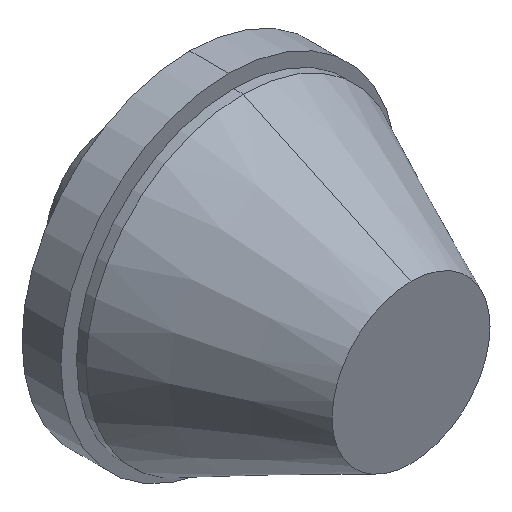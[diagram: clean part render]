
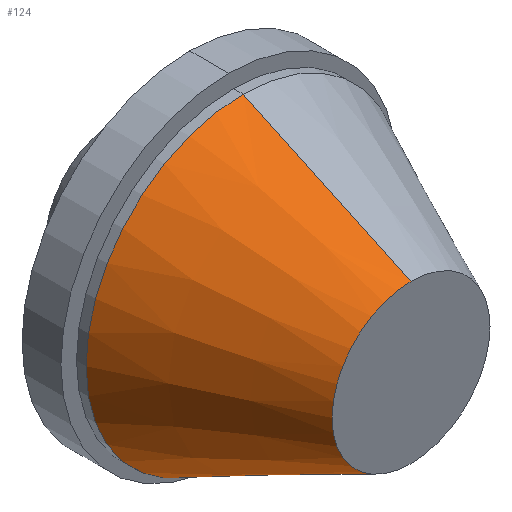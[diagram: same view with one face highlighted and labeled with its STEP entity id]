
A CAD part, isometric view. The second image highlights one B-rep face of the part: STEP entity #124.
In plain terms, the highlighted conical face has half-angle 24.964 degrees and reference radius 16.456 mm.
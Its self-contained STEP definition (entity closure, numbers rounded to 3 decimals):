
#32 = ORIENTED_EDGE ( 'NONE', *, *, #476, .F. ) ;
#42 = ORIENTED_EDGE ( 'NONE', *, *, #471, .T. ) ;
#64 = ORIENTED_EDGE ( 'NONE', *, *, #481, .T. ) ;
#70 = ORIENTED_EDGE ( 'NONE', *, *, #394, .T. ) ;
#124 = ADVANCED_FACE ( 'NONE', ( #152 ), #138, .T. ) ;
#138 = CONICAL_SURFACE ( 'NONE', #410, 16.456, 0.436 ) ;
#139 = CIRCLE ( 'NONE', #419, 16.456 ) ;
#152 = FACE_OUTER_BOUND ( 'NONE', #252, .T. ) ;
#201 = CARTESIAN_POINT ( 'NONE',  ( 0., 0., -16.456 ) ) ;
#210 = DIRECTION ( 'NONE',  ( 0., 0.907, -0.422 ) ) ;
#220 = VERTEX_POINT ( 'NONE', #347 ) ;
#222 = VERTEX_POINT ( 'NONE', #282 ) ;
#224 = VERTEX_POINT ( 'NONE', #335 ) ;
#228 = VERTEX_POINT ( 'NONE', #342 ) ;
#252 = EDGE_LOOP ( 'NONE', ( #32, #70, #64, #42 ) ) ;
#282 = CARTESIAN_POINT ( 'NONE',  ( 0., 35., -32.75 ) ) ;
#289 = CARTESIAN_POINT ( 'NONE',  ( 0., 0., 0. ) ) ;
#293 = DIRECTION ( 'NONE',  ( 0., 1., 0. ) ) ;
#295 = DIRECTION ( 'NONE',  ( 0., 0., 1. ) ) ;
#303 = DIRECTION ( 'NONE',  ( 0., 0., -1. ) ) ;
#304 = DIRECTION ( 'NONE',  ( 0., -1., 0. ) ) ;
#305 = CARTESIAN_POINT ( 'NONE',  ( 0., 35., 0. ) ) ;
#335 = CARTESIAN_POINT ( 'NONE',  ( 0., 35., 32.75 ) ) ;
#342 = CARTESIAN_POINT ( 'NONE',  ( 0., 0., 16.456 ) ) ;
#347 = CARTESIAN_POINT ( 'NONE',  ( 0., 0., -16.456 ) ) ;
#361 = DIRECTION ( 'NONE',  ( 0., 0.907, 0.422 ) ) ;
#362 = CARTESIAN_POINT ( 'NONE',  ( 0., 0., 16.456 ) ) ;
#372 = VECTOR ( 'NONE', #361, 1000. ) ;
#374 = LINE ( 'NONE', #362, #372 ) ;
#380 = VECTOR ( 'NONE', #210, 1000. ) ;
#382 = LINE ( 'NONE', #201, #380 ) ;
#392 = CIRCLE ( 'NONE', #422, 32.75 ) ;
#394 = EDGE_CURVE ( 'NONE', #220, #228, #139, .T. ) ;
#410 = AXIS2_PLACEMENT_3D ( 'NONE', #289, #293, #295 ) ;
#419 = AXIS2_PLACEMENT_3D ( 'NONE', #453, #451, #450 ) ;
#422 = AXIS2_PLACEMENT_3D ( 'NONE', #305, #304, #303 ) ;
#450 = DIRECTION ( 'NONE',  ( 0., 0., 1. ) ) ;
#451 = DIRECTION ( 'NONE',  ( 0., 1., 0. ) ) ;
#453 = CARTESIAN_POINT ( 'NONE',  ( 0., 0., 0. ) ) ;
#471 = EDGE_CURVE ( 'NONE', #224, #222, #392, .T. ) ;
#476 = EDGE_CURVE ( 'NONE', #220, #222, #382, .T. ) ;
#481 = EDGE_CURVE ( 'NONE', #228, #224, #374, .T. ) ;
